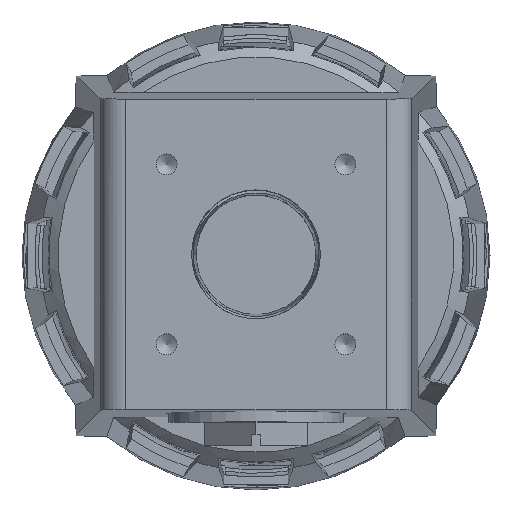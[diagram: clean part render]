
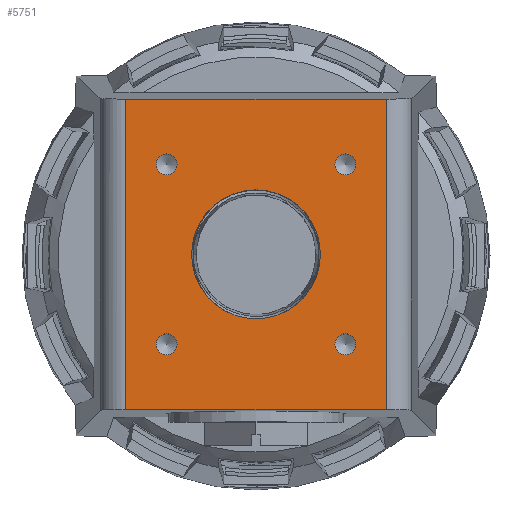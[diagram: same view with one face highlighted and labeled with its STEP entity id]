
A CAD part, top view. The second image highlights one B-rep face of the part: STEP entity #5751.
In plain terms, the highlighted planar face has unit normal (0, 0, 1).
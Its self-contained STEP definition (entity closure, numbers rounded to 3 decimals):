
#401=CARTESIAN_POINT('',(30.655,-36.5,0.0));
#402=VERTEX_POINT('',#401);
#412=CARTESIAN_POINT('',(-30.655,-36.5,0.0));
#413=VERTEX_POINT('',#412);
#414=CARTESIAN_POINT('',(30.655,-36.5,0.0));
#415=DIRECTION('',(-1.0,0.0,0.0));
#416=VECTOR('',#415,61.31);
#417=LINE('',#414,#416);
#418=EDGE_CURVE('',#402,#413,#417,.T.);
#5454=CARTESIAN_POINT('',(15.146,0.,0.0));
#5455=VERTEX_POINT('',#5454);
#5456=CARTESIAN_POINT('',(0.0,0.,0.0));
#5457=DIRECTION('',(0.0,0.0,-1.0));
#5458=DIRECTION('',(1.0,0.0,0.0));
#5459=AXIS2_PLACEMENT_3D('',#5456,#5457,#5458);
#5460=CIRCLE('',#5459,15.146);
#5461=EDGE_CURVE('',#5455,#5455,#5460,.T.);
#5635=CARTESIAN_POINT('',(-30.655,36.5,0.0));
#5636=VERTEX_POINT('',#5635);
#5646=CARTESIAN_POINT('',(-30.655,-36.5,0.0));
#5647=DIRECTION('',(0.0,1.0,0.0));
#5648=VECTOR('',#5647,73.0);
#5649=LINE('',#5646,#5648);
#5650=EDGE_CURVE('',#413,#5636,#5649,.T.);
#5660=CARTESIAN_POINT('',(30.655,36.5,0.0));
#5661=VERTEX_POINT('',#5660);
#5679=CARTESIAN_POINT('',(-30.655,36.5,0.0));
#5680=DIRECTION('',(1.0,0.0,0.0));
#5681=VECTOR('',#5680,61.31);
#5682=LINE('',#5679,#5681);
#5683=EDGE_CURVE('',#5636,#5661,#5682,.T.);
#5688=CARTESIAN_POINT('',(0.,0.,0.0));
#5689=DIRECTION('',(0.0,0.0,1.0));
#5690=DIRECTION('',(1.0,0.0,0.0));
#5691=AXIS2_PLACEMENT_3D('',#5688,#5689,#5690);
#5692=PLANE('',#5691);
#5693=CARTESIAN_POINT('',(30.655,36.5,0.0));
#5694=DIRECTION('',(0.0,-1.0,0.0));
#5695=VECTOR('',#5694,73.0);
#5696=LINE('',#5693,#5695);
#5697=EDGE_CURVE('',#5661,#402,#5696,.T.);
#5698=ORIENTED_EDGE('',*,*,#5697,.F.);
#5699=ORIENTED_EDGE('',*,*,#5683,.F.);
#5700=ORIENTED_EDGE('',*,*,#5650,.F.);
#5701=ORIENTED_EDGE('',*,*,#418,.F.);
#5702=EDGE_LOOP('',(#5698,#5699,#5700,#5701));
#5703=FACE_OUTER_BOUND('',#5702,.T.);
#5704=CARTESIAN_POINT('',(23.459,21.139,0.0));
#5705=VERTEX_POINT('',#5704);
#5706=CARTESIAN_POINT('',(21.,21.139,0.0));
#5707=DIRECTION('',(0.0,0.0,-1.0));
#5708=DIRECTION('',(1.0,0.0,0.0));
#5709=AXIS2_PLACEMENT_3D('',#5706,#5707,#5708);
#5710=CIRCLE('',#5709,2.459);
#5711=EDGE_CURVE('',#5705,#5705,#5710,.T.);
#5712=ORIENTED_EDGE('',*,*,#5711,.T.);
#5713=EDGE_LOOP('',(#5712));
#5714=FACE_BOUND('',#5713,.T.);
#5715=CARTESIAN_POINT('',(-18.541,21.139,0.0));
#5716=VERTEX_POINT('',#5715);
#5717=CARTESIAN_POINT('',(-21.,21.139,0.0));
#5718=DIRECTION('',(0.0,0.0,-1.0));
#5719=DIRECTION('',(1.0,0.0,0.0));
#5720=AXIS2_PLACEMENT_3D('',#5717,#5718,#5719);
#5721=CIRCLE('',#5720,2.459);
#5722=EDGE_CURVE('',#5716,#5716,#5721,.T.);
#5723=ORIENTED_EDGE('',*,*,#5722,.T.);
#5724=EDGE_LOOP('',(#5723));
#5725=FACE_BOUND('',#5724,.T.);
#5726=CARTESIAN_POINT('',(-18.542,-21.139,0.0));
#5727=VERTEX_POINT('',#5726);
#5728=CARTESIAN_POINT('',(-21.,-21.139,0.0));
#5729=DIRECTION('',(0.0,0.0,-1.0));
#5730=DIRECTION('',(1.0,0.0,0.0));
#5731=AXIS2_PLACEMENT_3D('',#5728,#5729,#5730);
#5732=CIRCLE('',#5731,2.459);
#5733=EDGE_CURVE('',#5727,#5727,#5732,.T.);
#5734=ORIENTED_EDGE('',*,*,#5733,.T.);
#5735=EDGE_LOOP('',(#5734));
#5736=FACE_BOUND('',#5735,.T.);
#5737=CARTESIAN_POINT('',(23.459,-21.139,0.0));
#5738=VERTEX_POINT('',#5737);
#5739=CARTESIAN_POINT('',(21.0,-21.139,0.0));
#5740=DIRECTION('',(0.0,0.0,-1.0));
#5741=DIRECTION('',(1.0,0.0,0.0));
#5742=AXIS2_PLACEMENT_3D('',#5739,#5740,#5741);
#5743=CIRCLE('',#5742,2.459);
#5744=EDGE_CURVE('',#5738,#5738,#5743,.T.);
#5745=ORIENTED_EDGE('',*,*,#5744,.T.);
#5746=EDGE_LOOP('',(#5745));
#5747=FACE_BOUND('',#5746,.T.);
#5748=ORIENTED_EDGE('',*,*,#5461,.T.);
#5749=EDGE_LOOP('',(#5748));
#5750=FACE_BOUND('',#5749,.T.);
#5751=ADVANCED_FACE('',(#5703,#5714,#5725,#5736,#5747,#5750),#5692,.T.);
